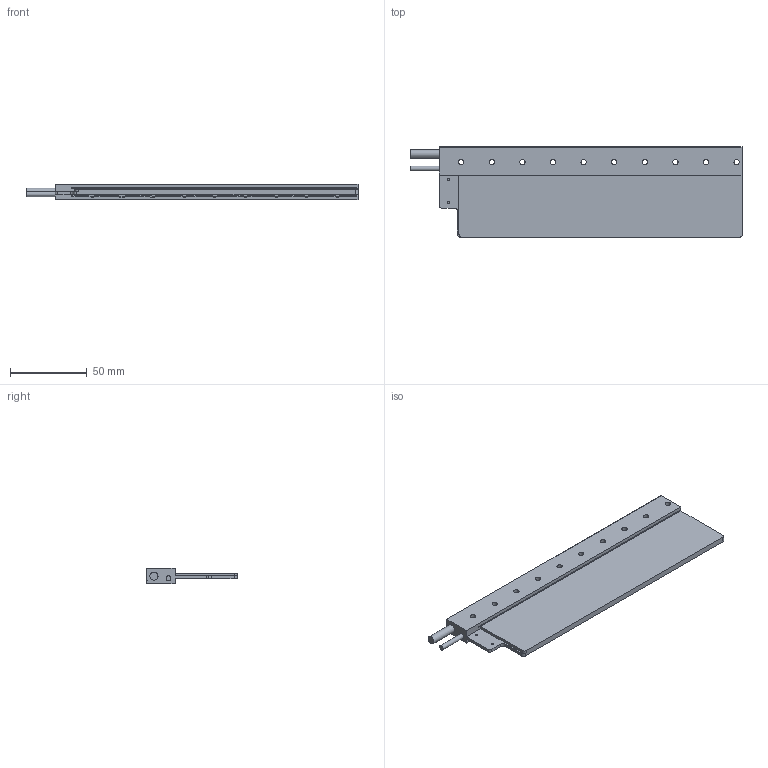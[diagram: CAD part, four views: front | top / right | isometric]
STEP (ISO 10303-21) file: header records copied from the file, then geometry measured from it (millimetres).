
FILE_DESCRIPTION( ( '-' ), '1' );
FILE_NAME( 'C:/Users/peikelboom/Desktop/STEP Files/Ironless/UM/Coilunit UM 9_160607.stp', '20-04-2016', ( 'P.Eikelboom' ), ( 'Technotion' ), 'PSStep 16.0.42', '-', ' ' );
FILE_SCHEMA( ( 'AUTOMOTIVE_DESIGN { 1 0 10303 214 1 1 1 1 }' ) );
Length unit declared in the file: millimetre
Products named in the file (1): 4022 363 35012-oa0
Bounding box: 217 x 59.1 x 10 mm (x, y, z)
Surface area: 30602 mm2 (no closed solid volume)
Topology: 0 solids, 132 shells, 132 faces, 716 edges, 698 vertices
Faces by surface type: cylinder 66, plane 64, cone 2
Full cylindrical faces by diameter (mm): 1.6 x2, 3.2 x2, 3.5 x10, 5.3 x1, 5.6 x1
Entity records: 8246 total; most frequent: CARTESIAN_POINT 1841, DIRECTION 1152, ORIENTED_EDGE 692, EDGE_CURVE 692, VERTEX_POINT 692, LINE 426, VECTOR 426, AXIS2_PLACEMENT_3D 363
